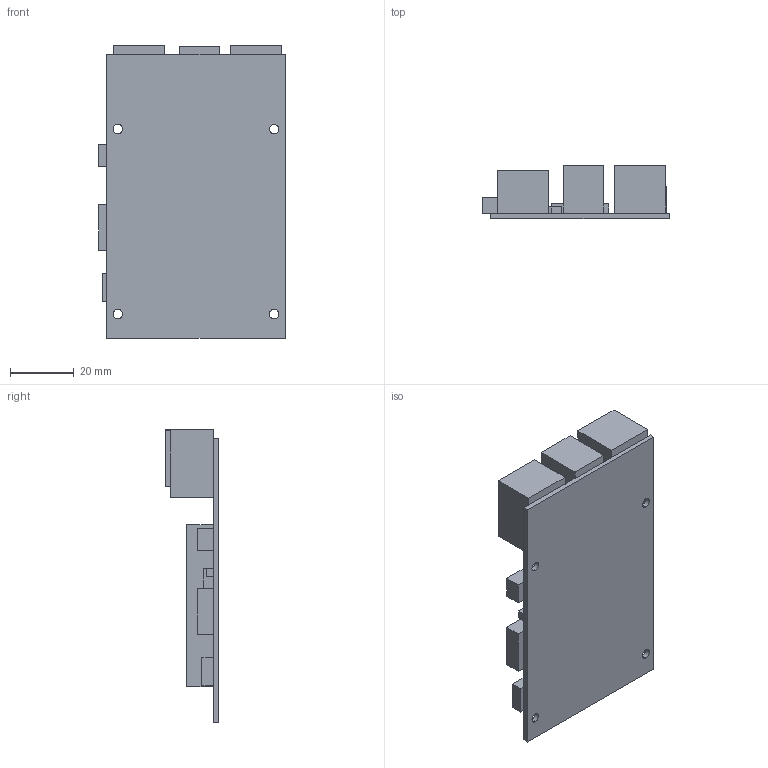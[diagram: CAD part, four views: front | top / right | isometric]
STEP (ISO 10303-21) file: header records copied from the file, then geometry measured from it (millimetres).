
FILE_DESCRIPTION(('Open CASCADE Model'),'2;1');
FILE_NAME('orange-pi-4-pro-wristward-ports.step','2026-11-14T14:32:01',( 'Author'),('Open CASCADE'),'Open CASCADE STEP processor 8.0', 'Open CASCADE 8.0','Unknown');
FILE_SCHEMA(('AP242_MANAGED_MODEL_BASED_3D_ENGINEERING_MIM_LF {1 0 10303 442 1 1 4 }' ));
Length unit declared in the file: millimetre
Products named in the file (1): Orange Pi 4 Pro Wristward Ports
Bounding box: 58.5 x 16.6 x 91.69 mm (x, y, z)
Volume: 24952 mm3; surface area: 18856.3 mm2
Topology: 10 solids, 10 shells, 68 faces, 144 edges, 96 vertices
Faces by surface type: plane 60, cylinder 8
Entity records: 3732 total; most frequent: CARTESIAN_POINT 693, DIRECTION 570, LINE 400, VECTOR 400, ORIENTED_EDGE 288, PCURVE 288, DEFINITIONAL_REPRESENTATION 288, EDGE_CURVE 144
